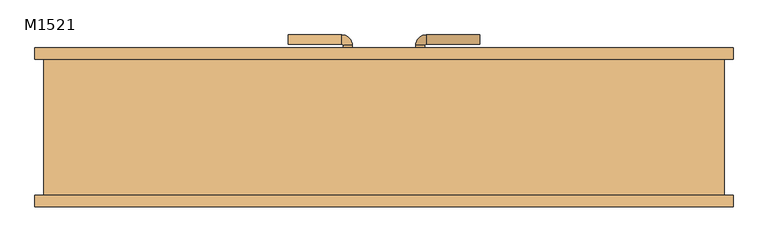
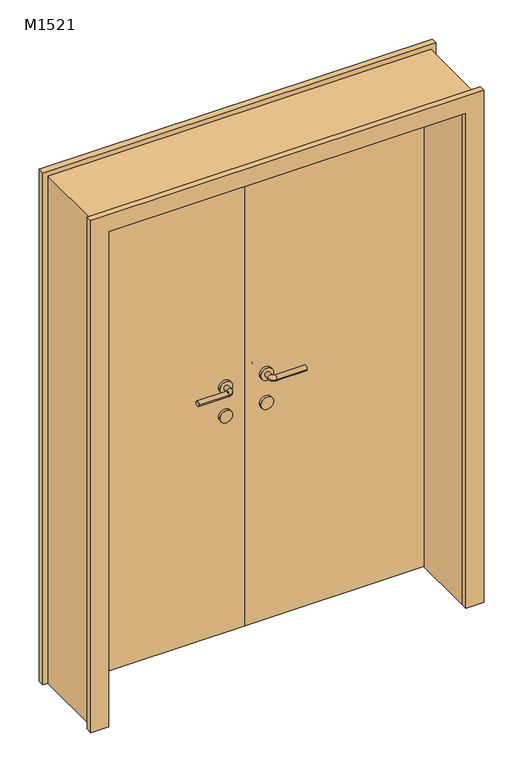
"""IFC4 building model written with IfcOpenShell, lengths in millimetres: door geometry, 双面嵌板木门 1 : M1521."""

from ifc_helpers import new_model, si_unit, point, frame, frame_2d, origin, origin_with_axes, place, context, project, spatial, polyline, circle_curve, ellipse_curve, trimmed, segment, composite_curve, outline, extrude, source, transform, mapped, element, save
from ifc_brep_helpers import plane_surface, cylinder_surface, revolved_surface, advanced_brep


def m1521_3751524f(model_context):
    return source(origin(), model_context, "Body", "SolidModel", [
        extrude(outline(composite_curve([segment(trimmed(circle_curve(frame_2d((900.0, 80.0)), 25.0), [point((900.0, 105.0))], [point((900.0, 55.0))], False, "CARTESIAN"), True, "CONTINUOUS"), segment(trimmed(circle_curve(frame_2d((900.0, 80.0)), 25.0), [point((900.0, 55.0))], [point((900.0, 105.0))], False, "CARTESIAN"), True, "CONTINUOUS")], self_intersect=False)), frame((0.0, 150.0, 0.0), z_axis=(0.0, 1.0, 0.0), x_axis=(0.0, 0.0, 1.0)), (0.0, 0.0, 1.0), 10.0),
        extrude(outline(composite_curve([segment(trimmed(circle_curve(frame_2d((900.0, 80.0)), 25.0), [point((900.0, 105.0))], [point((900.0, 55.0))], False, "CARTESIAN"), True, "CONTINUOUS"), segment(trimmed(circle_curve(frame_2d((900.0, 80.0)), 25.0), [point((900.0, 55.0))], [point((900.0, 105.0))], False, "CARTESIAN"), True, "CONTINUOUS")], self_intersect=False)), frame((0.0, 100.0, 0.0), z_axis=(0.0, 1.0, 0.0), x_axis=(0.0, 0.0, 1.0)), (0.0, 0.0, 1.0), 10.0),
        advanced_brep(
        [(70.0, 160.0, 1020.0), (90.0, 160.0, 1020.0), (70.0, 180.6133551, 1020.0), (90.0, 180.6133551, 1020.0), (211.580964, 203.580964, 1020.0), (211.580964, 183.580964, 1020.0), (92.9676089, 183.580964, 1020.0), (92.9676089, 203.580964, 1020.0)],
        [
            (0, 1, circle_curve(frame((80.0, 160.0, 1020.0), z_axis=(0.0, -1.0, 0.0), x_axis=(1.0, 0.0, 0.0)), 10.0)),
            (1, 0, circle_curve(frame((80.0, 160.0, 1020.0), z_axis=(0.0, -1.0, 0.0), x_axis=(1.0, 0.0, 0.0)), 10.0)),
            (0, 2),
            (2, 3, circle_curve(frame((80.0, 180.6133551, 1020.0), z_axis=(0.0, -1.0, 0.0), x_axis=(1.0, 0.0, 0.0)), 10.0)),
            (3, 1),
            (3, 2, circle_curve(frame((80.0, 180.6133551, 1020.0), z_axis=(0.0, -1.0, 0.0), x_axis=(1.0, 0.0, 0.0)), 10.0)),
            (4, 5, circle_curve(frame((211.580964, 193.580964, 1020.0), z_axis=(1.0, 0.0, 0.0), x_axis=(0.0, -1.0, 0.0)), 10.0)),
            (5, 4, circle_curve(frame((211.580964, 193.580964, 1020.0), z_axis=(1.0, 0.0, 0.0), x_axis=(0.0, -1.0, 0.0)), 10.0)),
            (6, 7, circle_curve(frame((92.9676089, 193.580964, 1020.0), z_axis=(-1.0, 0.0, 0.0), x_axis=(0.0, -1.0, 0.0)), 10.0)),
            (7, 2, circle_curve(frame((92.9676089, 180.6133551, 1020.0), z_axis=(0.0, 0.0, 1.0), x_axis=(-1.0, 0.0, 0.0)), 22.9676089)),
            (3, 6, circle_curve(frame((92.9676089, 180.6133551, 1020.0), z_axis=(0.0, 0.0, -1.0), x_axis=(-1.0, 0.0, 0.0)), 2.9676089)),
            (7, 6, circle_curve(frame((92.9676089, 193.580964, 1020.0), z_axis=(-1.0, 0.0, 0.0), x_axis=(0.0, -1.0, 0.0)), 10.0)),
            (6, 5),
            (4, 7),
        ],
        [
            plane_surface(frame((80.0, 160.0, 900.0), z_axis=(0.0, -1.0, 0.0), x_axis=(0.0, 0.0, 1.0))),
            cylinder_surface(frame((80.0, 160.0, 1020.0), z_axis=(0.0, -1.0, 0.0), x_axis=(1.0, 0.0, 0.0)), 10.0),
            plane_surface(frame((211.580964, 193.580964, 900.0), z_axis=(1.0, 0.0, 0.0), x_axis=(0.0, 0.0, 1.0))),
            revolved_surface(trimmed(ellipse_curve(frame((80.0, 180.6133551, 1020.0), z_axis=(0.0, 1.0, 0.0), x_axis=(1.0, 0.0, 0.0)), 10.0, 10.0), [point((70.0, 180.6133551, 1020.0))], [point((90.0, 180.6133551, 1020.0))], True, "CARTESIAN"), (92.9676089, 180.6133551, 900.0), (0.0, 0.0, 1.0)),
            revolved_surface(trimmed(ellipse_curve(frame((80.0, 180.6133551, 1020.0), z_axis=(0.0, 1.0, 0.0), x_axis=(1.0, 0.0, 0.0)), 10.0, 10.0), [point((90.0, 180.6133551, 1020.0))], [point((70.0, 180.6133551, 1020.0))], True, "CARTESIAN"), (92.9676089, 180.6133551, 900.0), (0.0, 0.0, 1.0)),
            cylinder_surface(frame((92.9676089, 193.580964, 1020.0), z_axis=(-1.0, 0.0, 0.0), x_axis=(0.0, -1.0, 0.0)), 10.0),
        ],
        [
            (0, [[1, 2]]),
            (1, [[3, 4, 5, -1]]),
            (1, [[-5, 6, -3, -2]]),
            (2, [[7, 8]]),
            (3, [[9, 10, -6, 11]]),
            (4, [[12, -11, -4, -10]]),
            (5, [[13, -7, 14, -9]]),
            (5, [[-14, -8, -13, -12]]),
        ],
    ),
        extrude(outline(composite_curve([segment(trimmed(circle_curve(frame_2d((1020.0, 80.0)), 25.0), [point((1020.0, 105.0))], [point((1020.0, 55.0))], False, "CARTESIAN"), True, "CONTINUOUS"), segment(trimmed(circle_curve(frame_2d((1020.0, 80.0)), 25.0), [point((1020.0, 55.0))], [point((1020.0, 105.0))], False, "CARTESIAN"), True, "CONTINUOUS")], self_intersect=False)), frame((0.0, 150.0, 0.0), z_axis=(0.0, 1.0, 0.0), x_axis=(0.0, 0.0, 1.0)), (0.0, 0.0, 1.0), 10.0),
        advanced_brep(
        [(90.0, 100.0, 1020.0), (70.0, 100.0, 1020.0), (70.0, 79.386645, 1020.0), (90.0, 79.386645, 1020.0), (211.580964, 76.419036, 1020.0), (211.580964, 56.419036, 1020.0), (92.9676089, 56.419036, 1020.0), (92.9676089, 76.419036, 1020.0)],
        [
            (0, 1, circle_curve(frame((80.0, 100.0, 1020.0), z_axis=(0.0, 1.0, 0.0), x_axis=(-1.0, 0.0, 0.0)), 10.0)),
            (1, 0, circle_curve(frame((80.0, 100.0, 1020.0), z_axis=(0.0, 1.0, 0.0), x_axis=(-1.0, 0.0, 0.0)), 10.0)),
            (1, 2),
            (2, 3, circle_curve(frame((80.0, 79.386645, 1020.0), z_axis=(0.0, 1.0, 0.0), x_axis=(-1.0, 0.0, 0.0)), 10.0)),
            (3, 0),
            (3, 2, circle_curve(frame((80.0, 79.386645, 1020.0), z_axis=(0.0, 1.0, 0.0), x_axis=(-1.0, 0.0, 0.0)), 10.0)),
            (4, 5, circle_curve(frame((211.580964, 66.419036, 1020.0), z_axis=(1.0, 0.0, 0.0), x_axis=(0.0, -1.0, 0.0)), 10.0)),
            (5, 4, circle_curve(frame((211.580964, 66.419036, 1020.0), z_axis=(1.0, 0.0, 0.0), x_axis=(0.0, -1.0, 0.0)), 10.0)),
            (6, 7, circle_curve(frame((92.9676089, 66.419036, 1020.0), z_axis=(-1.0, 0.0, 0.0), x_axis=(0.0, -1.0, 0.0)), 10.0)),
            (7, 3, circle_curve(frame((92.9676089, 79.386645, 1020.0), z_axis=(0.0, 0.0, -1.0), x_axis=(-1.0, 0.0, 0.0)), 2.9676089)),
            (2, 6, circle_curve(frame((92.9676089, 79.386645, 1020.0), z_axis=(0.0, 0.0, 1.0), x_axis=(-1.0, 0.0, 0.0)), 22.9676089)),
            (7, 6, circle_curve(frame((92.9676089, 66.419036, 1020.0), z_axis=(-1.0, 0.0, 0.0), x_axis=(0.0, -1.0, 0.0)), 10.0)),
            (6, 5),
            (4, 7),
        ],
        [
            plane_surface(frame((80.0, 100.0, 900.0), z_axis=(0.0, 1.0, 0.0), x_axis=(0.0, 0.0, 1.0))),
            cylinder_surface(frame((80.0, 100.0, 1020.0), z_axis=(0.0, 1.0, 0.0), x_axis=(-1.0, 0.0, 0.0)), 10.0),
            plane_surface(frame((211.580964, 66.419036, 900.0), z_axis=(1.0, 0.0, 0.0), x_axis=(0.0, 0.0, 1.0))),
            revolved_surface(trimmed(ellipse_curve(frame((80.0, 79.386645, 1020.0), z_axis=(0.0, -1.0, 0.0), x_axis=(-1.0, 0.0, 0.0)), 10.0, 10.0), [point((90.0, 79.386645, 1020.0))], [point((70.0, 79.386645, 1020.0))], True, "CARTESIAN"), (92.9676089, 79.386645, 900.0), (0.0, 0.0, -1.0)),
            revolved_surface(trimmed(ellipse_curve(frame((80.0, 79.386645, 1020.0), z_axis=(0.0, -1.0, 0.0), x_axis=(-1.0, 0.0, 0.0)), 10.0, 10.0), [point((70.0, 79.386645, 1020.0))], [point((90.0, 79.386645, 1020.0))], True, "CARTESIAN"), (92.9676089, 79.386645, 900.0), (0.0, 0.0, -1.0)),
            cylinder_surface(frame((92.9676089, 66.419036, 1020.0), z_axis=(-1.0, 0.0, 0.0), x_axis=(0.0, -1.0, 0.0)), 10.0),
        ],
        [
            (0, [[1, 2]]),
            (1, [[3, 4, 5, -2]]),
            (1, [[-5, 6, -3, -1]]),
            (2, [[7, 8]]),
            (3, [[9, 10, -4, 11]]),
            (4, [[12, -11, -6, -10]]),
            (5, [[13, -7, 14, -9]]),
            (5, [[-14, -8, -13, -12]]),
        ],
    ),
        extrude(outline(composite_curve([segment(trimmed(circle_curve(frame_2d((1020.0, 80.0)), 25.0), [point((1020.0, 105.0))], [point((1020.0, 55.0))], False, "CARTESIAN"), True, "CONTINUOUS"), segment(trimmed(circle_curve(frame_2d((1020.0, 80.0)), 25.0), [point((1020.0, 55.0))], [point((1020.0, 105.0))], False, "CARTESIAN"), True, "CONTINUOUS")], self_intersect=False)), frame((0.0, 100.0, 0.0), z_axis=(0.0, 1.0, 0.0), x_axis=(0.0, 0.0, 1.0)), (0.0, 0.0, 1.0), 10.0),
        extrude(outline(composite_curve([segment(trimmed(circle_curve(frame_2d((900.0, -80.0)), 25.0), [point((900.0, -105.0))], [point((900.0, -55.0))], False, "CARTESIAN"), True, "CONTINUOUS"), segment(trimmed(circle_curve(frame_2d((900.0, -80.0)), 25.0), [point((900.0, -55.0))], [point((900.0, -105.0))], False, "CARTESIAN"), True, "CONTINUOUS")], self_intersect=False)), frame((0.0, 150.0, 0.0), z_axis=(0.0, 1.0, 0.0), x_axis=(0.0, 0.0, 1.0)), (0.0, 0.0, 1.0), 10.0),
        extrude(outline(composite_curve([segment(trimmed(circle_curve(frame_2d((900.0, -80.0)), 25.0), [point((900.0, -105.0))], [point((900.0, -55.0))], False, "CARTESIAN"), True, "CONTINUOUS"), segment(trimmed(circle_curve(frame_2d((900.0, -80.0)), 25.0), [point((900.0, -55.0))], [point((900.0, -105.0))], False, "CARTESIAN"), True, "CONTINUOUS")], self_intersect=False)), frame((0.0, 100.0, 0.0), z_axis=(0.0, 1.0, 0.0), x_axis=(0.0, 0.0, 1.0)), (0.0, 0.0, 1.0), 10.0),
        advanced_brep(
        [(-70.0, 160.0, 1020.0), (-90.0, 160.0, 1020.0), (-90.0, 180.6133551, 1020.0), (-70.0, 180.6133551, 1020.0), (-211.580964, 203.580964, 1020.0), (-211.580964, 183.580964, 1020.0), (-92.9676089, 183.580964, 1020.0), (-92.9676089, 203.580964, 1020.0)],
        [
            (0, 1, circle_curve(frame((-80.0, 160.0, 1020.0), z_axis=(0.0, -1.0, 0.0), x_axis=(-1.0, 0.0, 0.0)), 10.0)),
            (1, 0, circle_curve(frame((-80.0, 160.0, 1020.0), z_axis=(0.0, -1.0, 0.0), x_axis=(-1.0, 0.0, 0.0)), 10.0)),
            (1, 2),
            (2, 3, circle_curve(frame((-80.0, 180.6133551, 1020.0), z_axis=(0.0, -1.0, 0.0), x_axis=(-1.0, 0.0, 0.0)), 10.0)),
            (3, 0),
            (3, 2, circle_curve(frame((-80.0, 180.6133551, 1020.0), z_axis=(0.0, -1.0, 0.0), x_axis=(-1.0, 0.0, 0.0)), 10.0)),
            (4, 5, circle_curve(frame((-211.580964, 193.580964, 1020.0), z_axis=(-1.0, 0.0, 0.0), x_axis=(0.0, -1.0, 0.0)), 10.0)),
            (5, 4, circle_curve(frame((-211.580964, 193.580964, 1020.0), z_axis=(-1.0, 0.0, 0.0), x_axis=(0.0, -1.0, 0.0)), 10.0)),
            (6, 2, circle_curve(frame((-92.9676089, 180.6133551, 1020.0), z_axis=(0.0, 0.0, -1.0), x_axis=(1.0, 0.0, 0.0)), 2.9676089)),
            (3, 7, circle_curve(frame((-92.9676089, 180.6133551, 1020.0), z_axis=(0.0, 0.0, 1.0), x_axis=(1.0, 0.0, 0.0)), 22.9676089)),
            (7, 6, circle_curve(frame((-92.9676089, 193.580964, 1020.0), z_axis=(1.0, 0.0, 0.0), x_axis=(0.0, -1.0, 0.0)), 10.0)),
            (6, 7, circle_curve(frame((-92.9676089, 193.580964, 1020.0), z_axis=(1.0, 0.0, 0.0), x_axis=(0.0, -1.0, 0.0)), 10.0)),
            (7, 4),
            (5, 6),
        ],
        [
            plane_surface(frame((-80.0, 160.0, 900.0), z_axis=(0.0, -1.0, 0.0), x_axis=(0.0, 0.0, 1.0))),
            cylinder_surface(frame((-80.0, 160.0, 1020.0), z_axis=(0.0, -1.0, 0.0), x_axis=(-1.0, 0.0, 0.0)), 10.0),
            plane_surface(frame((-211.580964, 193.580964, 900.0), z_axis=(-1.0, 0.0, 0.0), x_axis=(0.0, 0.0, 1.0))),
            revolved_surface(trimmed(ellipse_curve(frame((-80.0, 180.6133551, 1020.0), z_axis=(0.0, -1.0, 0.0), x_axis=(-1.0, 0.0, 0.0)), 10.0, 10.0), [point((-70.0, 180.6133551, 1020.0))], [point((-90.0, 180.6133551, 1020.0))], True, "CARTESIAN"), (-92.9676089, 180.6133551, 900.0), (0.0, 0.0, 1.0)),
            revolved_surface(trimmed(ellipse_curve(frame((-80.0, 180.6133551, 1020.0), z_axis=(0.0, -1.0, 0.0), x_axis=(-1.0, 0.0, 0.0)), 10.0, 10.0), [point((-90.0, 180.6133551, 1020.0))], [point((-70.0, 180.6133551, 1020.0))], True, "CARTESIAN"), (-92.9676089, 180.6133551, 900.0), (0.0, 0.0, 1.0)),
            cylinder_surface(frame((-92.9676089, 193.580964, 1020.0), z_axis=(1.0, 0.0, 0.0), x_axis=(0.0, -1.0, 0.0)), 10.0),
        ],
        [
            (0, [[1, 2]]),
            (1, [[-2, 3, 4, 5]]),
            (1, [[-1, -5, 6, -3]]),
            (2, [[7, 8]]),
            (3, [[9, -6, 10, 11]]),
            (4, [[-10, -4, -9, 12]]),
            (5, [[-11, 13, -8, 14]]),
            (5, [[-12, -14, -7, -13]]),
        ],
    ),
        extrude(outline(composite_curve([segment(trimmed(circle_curve(frame_2d((1020.0, -80.0)), 25.0), [point((1020.0, -105.0))], [point((1020.0, -55.0))], False, "CARTESIAN"), True, "CONTINUOUS"), segment(trimmed(circle_curve(frame_2d((1020.0, -80.0)), 25.0), [point((1020.0, -55.0))], [point((1020.0, -105.0))], False, "CARTESIAN"), True, "CONTINUOUS")], self_intersect=False)), frame((0.0, 150.0, 0.0), z_axis=(0.0, 1.0, 0.0), x_axis=(0.0, 0.0, 1.0)), (0.0, 0.0, 1.0), 10.0),
        advanced_brep(
        [(-90.0, 100.0, 1020.0), (-70.0, 100.0, 1020.0), (-90.0, 79.386645, 1020.0), (-70.0, 79.386645, 1020.0), (-211.580964, 76.419036, 1020.0), (-211.580964, 56.419036, 1020.0), (-92.9676089, 56.419036, 1020.0), (-92.9676089, 76.419036, 1020.0)],
        [
            (0, 1, circle_curve(frame((-80.0, 100.0, 1020.0), z_axis=(0.0, 1.0, 0.0), x_axis=(1.0, 0.0, 0.0)), 10.0)),
            (1, 0, circle_curve(frame((-80.0, 100.0, 1020.0), z_axis=(0.0, 1.0, 0.0), x_axis=(1.0, 0.0, 0.0)), 10.0)),
            (0, 2),
            (2, 3, circle_curve(frame((-80.0, 79.386645, 1020.0), z_axis=(0.0, 1.0, 0.0), x_axis=(1.0, 0.0, 0.0)), 10.0)),
            (3, 1),
            (3, 2, circle_curve(frame((-80.0, 79.386645, 1020.0), z_axis=(0.0, 1.0, 0.0), x_axis=(1.0, 0.0, 0.0)), 10.0)),
            (4, 5, circle_curve(frame((-211.580964, 66.419036, 1020.0), z_axis=(-1.0, 0.0, 0.0), x_axis=(0.0, -1.0, 0.0)), 10.0)),
            (5, 4, circle_curve(frame((-211.580964, 66.419036, 1020.0), z_axis=(-1.0, 0.0, 0.0), x_axis=(0.0, -1.0, 0.0)), 10.0)),
            (6, 3, circle_curve(frame((-92.9676089, 79.386645, 1020.0), z_axis=(0.0, 0.0, 1.0), x_axis=(1.0, 0.0, 0.0)), 22.9676089)),
            (2, 7, circle_curve(frame((-92.9676089, 79.386645, 1020.0), z_axis=(0.0, 0.0, -1.0), x_axis=(1.0, 0.0, 0.0)), 2.9676089)),
            (7, 6, circle_curve(frame((-92.9676089, 66.419036, 1020.0), z_axis=(1.0, 0.0, 0.0), x_axis=(0.0, -1.0, 0.0)), 10.0)),
            (6, 7, circle_curve(frame((-92.9676089, 66.419036, 1020.0), z_axis=(1.0, 0.0, 0.0), x_axis=(0.0, -1.0, 0.0)), 10.0)),
            (7, 4),
            (5, 6),
        ],
        [
            plane_surface(frame((-80.0, 100.0, 900.0), z_axis=(0.0, 1.0, 0.0), x_axis=(0.0, 0.0, 1.0))),
            cylinder_surface(frame((-80.0, 100.0, 1020.0), z_axis=(0.0, 1.0, 0.0), x_axis=(1.0, 0.0, 0.0)), 10.0),
            plane_surface(frame((-211.580964, 66.419036, 900.0), z_axis=(-1.0, 0.0, 0.0), x_axis=(0.0, 0.0, 1.0))),
            revolved_surface(trimmed(ellipse_curve(frame((-80.0, 79.386645, 1020.0), z_axis=(0.0, 1.0, 0.0), x_axis=(1.0, 0.0, 0.0)), 10.0, 10.0), [point((-90.0, 79.386645, 1020.0))], [point((-70.0, 79.386645, 1020.0))], True, "CARTESIAN"), (-92.9676089, 79.386645, 900.0), (0.0, 0.0, -1.0)),
            revolved_surface(trimmed(ellipse_curve(frame((-80.0, 79.386645, 1020.0), z_axis=(0.0, 1.0, 0.0), x_axis=(1.0, 0.0, 0.0)), 10.0, 10.0), [point((-70.0, 79.386645, 1020.0))], [point((-90.0, 79.386645, 1020.0))], True, "CARTESIAN"), (-92.9676089, 79.386645, 900.0), (0.0, 0.0, -1.0)),
            cylinder_surface(frame((-92.9676089, 66.419036, 1020.0), z_axis=(1.0, 0.0, 0.0), x_axis=(0.0, -1.0, 0.0)), 10.0),
        ],
        [
            (0, [[1, 2]]),
            (1, [[-1, 3, 4, 5]]),
            (1, [[-2, -5, 6, -3]]),
            (2, [[7, 8]]),
            (3, [[9, -4, 10, 11]]),
            (4, [[-10, -6, -9, 12]]),
            (5, [[-11, 13, -8, 14]]),
            (5, [[-12, -14, -7, -13]]),
        ],
    ),
        extrude(outline(composite_curve([segment(trimmed(circle_curve(frame_2d((1020.0, -80.0)), 25.0), [point((1020.0, -105.0))], [point((1020.0, -55.0))], False, "CARTESIAN"), True, "CONTINUOUS"), segment(trimmed(circle_curve(frame_2d((1020.0, -80.0)), 25.0), [point((1020.0, -55.0))], [point((1020.0, -105.0))], False, "CARTESIAN"), True, "CONTINUOUS")], self_intersect=False)), frame((0.0, 100.0, 0.0), z_axis=(0.0, 1.0, 0.0), x_axis=(0.0, 0.0, 1.0)), (0.0, 0.0, 1.0), 10.0),
        extrude(outline(polyline([(0.0, 770.0), (2120.0, 770.0), (2120.0, -770.0), (0.0, -770.0), (0.0, -700.0), (2050.0, -700.0), (2050.0, 700.0), (0.0, 700.0), (0.0, 770.0)])), frame((0.0, 150.0, 0.0), z_axis=(0.0, 1.0, 0.0), x_axis=(0.0, 0.0, 1.0)), (0.0, 0.0, 1.0), 25.0),
        extrude(outline(polyline([(2120.0, 770.0), (2120.0, -770.0), (0.0, -770.0), (0.0, -700.0), (2050.0, -700.0), (2050.0, 700.0), (0.0, 700.0), (0.0, 770.0), (2120.0, 770.0)])), frame((0.0, -175.0, 0.0), z_axis=(0.0, 1.0, 0.0), x_axis=(0.0, 0.0, 1.0)), (0.0, 0.0, 1.0), 25.0),
        extrude(outline(polyline([(700.0, 110.0), (0.0, 110.0), (0.0, 150.0), (700.0, 150.0), (700.0, 110.0)])), origin_with_axes(), (0.0, 0.0, 1.0), 2050.0),
        extrude(outline(polyline([(0.0, 110.0), (-700.0, 110.0), (-700.0, 150.0), (0.0, 150.0), (0.0, 110.0)])), origin_with_axes(), (0.0, 0.0, 1.0), 2050.0),
        extrude(outline(polyline([(2100.0, -750.0), (0.0, -750.0), (0.0, -700.0), (2050.0, -700.0), (2050.0, 700.0), (0.0, 700.0), (0.0, 750.0), (2100.0, 750.0), (2100.0, -750.0)])), frame((0.0, -150.0, 0.0), z_axis=(0.0, 1.0, 0.0), x_axis=(0.0, 0.0, 1.0)), (0.0, 0.0, 1.0), 300.0),
    ])


if __name__ == "__main__":
    model = new_model("IFC4")
    model_context = context("Model", 3, world=origin())
    ifc_project = project(units=[si_unit("LENGTHUNIT", "METRE", prefix="MILLI")], contexts=[model_context])
    site = spatial("IfcSite", under=ifc_project)
    building = spatial("IfcBuilding", under=site)
    placement = place(None, origin())
    m1521_shape = m1521_3751524f(model_context)
    element("IfcDoor", 1, ObjectType="双面嵌板木门 1 : M1521", at=placement, inside=building, context=model_context, shape_type="MappedRepresentation", body=[
        mapped(m1521_shape, transform((0.0, 0.0, 0.0), x_axis=(1.0, 0.0, 0.0), y_axis=(0.0, 1.0, 0.0), z_axis=(0.0, 0.0, 1.0))),
    ])
    save(model, "model.ifc")
